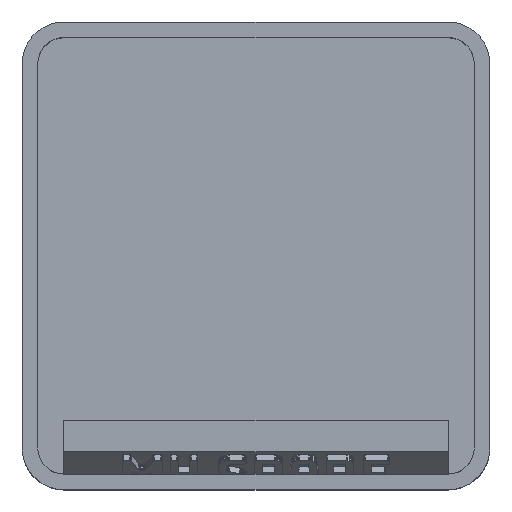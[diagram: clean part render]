
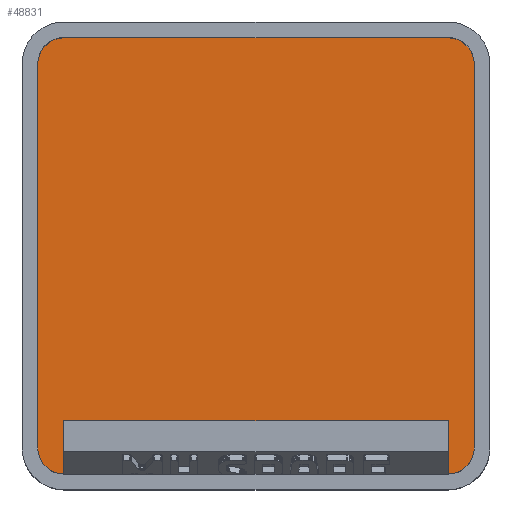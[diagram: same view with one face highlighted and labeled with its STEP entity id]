
A CAD part, top view. The second image highlights one B-rep face of the part: STEP entity #48831.
In plain terms, the highlighted planar face has unit normal (0, 0, 1).
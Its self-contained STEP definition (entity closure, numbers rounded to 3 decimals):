
#912 = PLANE('',#913);
#913 = AXIS2_PLACEMENT_3D('',#914,#915,#916);
#914 = CARTESIAN_POINT('',(-19.6,0.,21.));
#915 = DIRECTION('',(-1.,0.,0.));
#916 = DIRECTION('',(-0.,-1.,-0.));
#940 = CYLINDRICAL_SURFACE('',#941,2.35);
#941 = AXIS2_PLACEMENT_3D('',#942,#943,#944);
#942 = CARTESIAN_POINT('',(-17.25,17.25,5.95));
#943 = DIRECTION('',(-0.,-0.,1.));
#944 = DIRECTION('',(-1.,0.,0.));
#967 = PLANE('',#968);
#968 = AXIS2_PLACEMENT_3D('',#969,#970,#971);
#969 = CARTESIAN_POINT('',(0.,19.6,21.));
#970 = DIRECTION('',(0.,1.,0.));
#971 = DIRECTION('',(-1.,0.,0.));
#995 = CYLINDRICAL_SURFACE('',#996,2.35);
#996 = AXIS2_PLACEMENT_3D('',#997,#998,#999);
#997 = CARTESIAN_POINT('',(17.25,17.25,5.95));
#998 = DIRECTION('',(-0.,-0.,1.));
#999 = DIRECTION('',(-1.,0.,0.));
#1022 = PLANE('',#1023);
#1023 = AXIS2_PLACEMENT_3D('',#1024,#1025,#1026);
#1024 = CARTESIAN_POINT('',(19.6,0.,21.));
#1025 = DIRECTION('',(1.,0.,0.));
#1026 = DIRECTION('',(-0.,1.,0.));
#1050 = CYLINDRICAL_SURFACE('',#1051,2.35);
#1051 = AXIS2_PLACEMENT_3D('',#1052,#1053,#1054);
#1052 = CARTESIAN_POINT('',(17.25,-17.25,5.95));
#1053 = DIRECTION('',(-0.,-0.,1.));
#1054 = DIRECTION('',(-1.,0.,0.));
#1103 = CYLINDRICAL_SURFACE('',#1104,2.35);
#1104 = AXIS2_PLACEMENT_3D('',#1105,#1106,#1107);
#1105 = CARTESIAN_POINT('',(-17.25,-17.25,5.95));
#1106 = DIRECTION('',(-0.,-0.,1.));
#1107 = DIRECTION('',(-1.,0.,0.));
#17895 = EDGE_CURVE('',#17896,#17898,#17900,.T.);
#17896 = VERTEX_POINT('',#17897);
#17897 = CARTESIAN_POINT('',(-19.6,-17.25,5.95));
#17898 = VERTEX_POINT('',#17899);
#17899 = CARTESIAN_POINT('',(-19.6,17.25,5.95));
#17900 = SURFACE_CURVE('',#17901,(#17905,#17912),.PCURVE_S1.);
#17901 = LINE('',#17902,#17903);
#17902 = CARTESIAN_POINT('',(-19.6,0.,5.95));
#17903 = VECTOR('',#17904,1.);
#17904 = DIRECTION('',(0.,1.,0.));
#17905 = PCURVE('',#912,#17906);
#17906 = DEFINITIONAL_REPRESENTATION('',(#17907),#17911);
#17907 = LINE('',#17908,#17909);
#17908 = CARTESIAN_POINT('',(0.,-15.05));
#17909 = VECTOR('',#17910,1.);
#17910 = DIRECTION('',(-1.,0.));
#17911 = ( GEOMETRIC_REPRESENTATION_CONTEXT(2) 
PARAMETRIC_REPRESENTATION_CONTEXT() REPRESENTATION_CONTEXT('2D SPACE',''
  ) );
#17912 = PCURVE('',#17913,#17918);
#17913 = PLANE('',#17914);
#17914 = AXIS2_PLACEMENT_3D('',#17915,#17916,#17917);
#17915 = CARTESIAN_POINT('',(-17.25,-17.25,5.95));
#17916 = DIRECTION('',(0.,0.,-1.));
#17917 = DIRECTION('',(-1.,0.,0.));
#17918 = DEFINITIONAL_REPRESENTATION('',(#17919),#17923);
#17919 = LINE('',#17920,#17921);
#17920 = CARTESIAN_POINT('',(2.35,17.25));
#17921 = VECTOR('',#17922,1.);
#17922 = DIRECTION('',(0.,1.));
#17923 = ( GEOMETRIC_REPRESENTATION_CONTEXT(2) 
PARAMETRIC_REPRESENTATION_CONTEXT() REPRESENTATION_CONTEXT('2D SPACE',''
  ) );
#17970 = EDGE_CURVE('',#17971,#17896,#17973,.T.);
#17971 = VERTEX_POINT('',#17972);
#17972 = CARTESIAN_POINT('',(-17.25,-19.6,5.95));
#17973 = SURFACE_CURVE('',#17974,(#17979,#17986),.PCURVE_S1.);
#17974 = CIRCLE('',#17975,2.35);
#17975 = AXIS2_PLACEMENT_3D('',#17976,#17977,#17978);
#17976 = CARTESIAN_POINT('',(-17.25,-17.25,5.95));
#17977 = DIRECTION('',(0.,0.,-1.));
#17978 = DIRECTION('',(-1.,0.,0.));
#17979 = PCURVE('',#1103,#17980);
#17980 = DEFINITIONAL_REPRESENTATION('',(#17981),#17985);
#17981 = LINE('',#17982,#17983);
#17982 = CARTESIAN_POINT('',(6.283,0.));
#17983 = VECTOR('',#17984,1.);
#17984 = DIRECTION('',(-1.,0.));
#17985 = ( GEOMETRIC_REPRESENTATION_CONTEXT(2) 
PARAMETRIC_REPRESENTATION_CONTEXT() REPRESENTATION_CONTEXT('2D SPACE',''
  ) );
#17986 = PCURVE('',#17913,#17987);
#17987 = DEFINITIONAL_REPRESENTATION('',(#17988),#17992);
#17988 = CIRCLE('',#17989,2.35);
#17989 = AXIS2_PLACEMENT_2D('',#17990,#17991);
#17990 = CARTESIAN_POINT('',(0.,0.));
#17991 = DIRECTION('',(1.,0.));
#17992 = ( GEOMETRIC_REPRESENTATION_CONTEXT(2) 
PARAMETRIC_REPRESENTATION_CONTEXT() REPRESENTATION_CONTEXT('2D SPACE',''
  ) );
#18010 = PLANE('',#18011);
#18011 = AXIS2_PLACEMENT_3D('',#18012,#18013,#18014);
#18012 = CARTESIAN_POINT('',(0.,-19.6,21.));
#18013 = DIRECTION('',(0.,-1.,0.));
#18014 = DIRECTION('',(1.,0.,0.));
#18097 = EDGE_CURVE('',#18098,#18100,#18102,.T.);
#18098 = VERTEX_POINT('',#18099);
#18099 = CARTESIAN_POINT('',(19.6,-17.25,5.95));
#18100 = VERTEX_POINT('',#18101);
#18101 = CARTESIAN_POINT('',(17.25,-19.6,5.95));
#18102 = SURFACE_CURVE('',#18103,(#18108,#18115),.PCURVE_S1.);
#18103 = CIRCLE('',#18104,2.35);
#18104 = AXIS2_PLACEMENT_3D('',#18105,#18106,#18107);
#18105 = CARTESIAN_POINT('',(17.25,-17.25,5.95));
#18106 = DIRECTION('',(0.,0.,-1.));
#18107 = DIRECTION('',(-1.,0.,0.));
#18108 = PCURVE('',#1050,#18109);
#18109 = DEFINITIONAL_REPRESENTATION('',(#18110),#18114);
#18110 = LINE('',#18111,#18112);
#18111 = CARTESIAN_POINT('',(6.283,0.));
#18112 = VECTOR('',#18113,1.);
#18113 = DIRECTION('',(-1.,0.));
#18114 = ( GEOMETRIC_REPRESENTATION_CONTEXT(2) 
PARAMETRIC_REPRESENTATION_CONTEXT() REPRESENTATION_CONTEXT('2D SPACE',''
  ) );
#18115 = PCURVE('',#17913,#18116);
#18116 = DEFINITIONAL_REPRESENTATION('',(#18117),#18121);
#18117 = CIRCLE('',#18118,2.35);
#18118 = AXIS2_PLACEMENT_2D('',#18119,#18120);
#18119 = CARTESIAN_POINT('',(-34.5,0.));
#18120 = DIRECTION('',(1.,0.));
#18121 = ( GEOMETRIC_REPRESENTATION_CONTEXT(2) 
PARAMETRIC_REPRESENTATION_CONTEXT() REPRESENTATION_CONTEXT('2D SPACE',''
  ) );
#18195 = EDGE_CURVE('',#18098,#18196,#18198,.T.);
#18196 = VERTEX_POINT('',#18197);
#18197 = CARTESIAN_POINT('',(19.6,17.25,5.95));
#18198 = SURFACE_CURVE('',#18199,(#18203,#18210),.PCURVE_S1.);
#18199 = LINE('',#18200,#18201);
#18200 = CARTESIAN_POINT('',(19.6,0.,5.95));
#18201 = VECTOR('',#18202,1.);
#18202 = DIRECTION('',(0.,1.,0.));
#18203 = PCURVE('',#1022,#18204);
#18204 = DEFINITIONAL_REPRESENTATION('',(#18205),#18209);
#18205 = LINE('',#18206,#18207);
#18206 = CARTESIAN_POINT('',(0.,-15.05));
#18207 = VECTOR('',#18208,1.);
#18208 = DIRECTION('',(1.,0.));
#18209 = ( GEOMETRIC_REPRESENTATION_CONTEXT(2) 
PARAMETRIC_REPRESENTATION_CONTEXT() REPRESENTATION_CONTEXT('2D SPACE',''
  ) );
#18210 = PCURVE('',#17913,#18211);
#18211 = DEFINITIONAL_REPRESENTATION('',(#18212),#18216);
#18212 = LINE('',#18213,#18214);
#18213 = CARTESIAN_POINT('',(-36.85,17.25));
#18214 = VECTOR('',#18215,1.);
#18215 = DIRECTION('',(0.,1.));
#18216 = ( GEOMETRIC_REPRESENTATION_CONTEXT(2) 
PARAMETRIC_REPRESENTATION_CONTEXT() REPRESENTATION_CONTEXT('2D SPACE',''
  ) );
#18243 = EDGE_CURVE('',#18244,#18196,#18246,.T.);
#18244 = VERTEX_POINT('',#18245);
#18245 = CARTESIAN_POINT('',(17.25,19.6,5.95));
#18246 = SURFACE_CURVE('',#18247,(#18252,#18259),.PCURVE_S1.);
#18247 = CIRCLE('',#18248,2.35);
#18248 = AXIS2_PLACEMENT_3D('',#18249,#18250,#18251);
#18249 = CARTESIAN_POINT('',(17.25,17.25,5.95));
#18250 = DIRECTION('',(0.,0.,-1.));
#18251 = DIRECTION('',(-1.,0.,0.));
#18252 = PCURVE('',#995,#18253);
#18253 = DEFINITIONAL_REPRESENTATION('',(#18254),#18258);
#18254 = LINE('',#18255,#18256);
#18255 = CARTESIAN_POINT('',(6.283,0.));
#18256 = VECTOR('',#18257,1.);
#18257 = DIRECTION('',(-1.,0.));
#18258 = ( GEOMETRIC_REPRESENTATION_CONTEXT(2) 
PARAMETRIC_REPRESENTATION_CONTEXT() REPRESENTATION_CONTEXT('2D SPACE',''
  ) );
#18259 = PCURVE('',#17913,#18260);
#18260 = DEFINITIONAL_REPRESENTATION('',(#18261),#18265);
#18261 = CIRCLE('',#18262,2.35);
#18262 = AXIS2_PLACEMENT_2D('',#18263,#18264);
#18263 = CARTESIAN_POINT('',(-34.5,34.5));
#18264 = DIRECTION('',(1.,0.));
#18265 = ( GEOMETRIC_REPRESENTATION_CONTEXT(2) 
PARAMETRIC_REPRESENTATION_CONTEXT() REPRESENTATION_CONTEXT('2D SPACE',''
  ) );
#18293 = EDGE_CURVE('',#18294,#18244,#18296,.T.);
#18294 = VERTEX_POINT('',#18295);
#18295 = CARTESIAN_POINT('',(-17.25,19.6,5.95));
#18296 = SURFACE_CURVE('',#18297,(#18301,#18308),.PCURVE_S1.);
#18297 = LINE('',#18298,#18299);
#18298 = CARTESIAN_POINT('',(0.,19.6,5.95));
#18299 = VECTOR('',#18300,1.);
#18300 = DIRECTION('',(1.,0.,0.));
#18301 = PCURVE('',#967,#18302);
#18302 = DEFINITIONAL_REPRESENTATION('',(#18303),#18307);
#18303 = LINE('',#18304,#18305);
#18304 = CARTESIAN_POINT('',(0.,-15.05));
#18305 = VECTOR('',#18306,1.);
#18306 = DIRECTION('',(-1.,0.));
#18307 = ( GEOMETRIC_REPRESENTATION_CONTEXT(2) 
PARAMETRIC_REPRESENTATION_CONTEXT() REPRESENTATION_CONTEXT('2D SPACE',''
  ) );
#18308 = PCURVE('',#17913,#18309);
#18309 = DEFINITIONAL_REPRESENTATION('',(#18310),#18314);
#18310 = LINE('',#18311,#18312);
#18311 = CARTESIAN_POINT('',(-17.25,36.85));
#18312 = VECTOR('',#18313,1.);
#18313 = DIRECTION('',(-1.,0.));
#18314 = ( GEOMETRIC_REPRESENTATION_CONTEXT(2) 
PARAMETRIC_REPRESENTATION_CONTEXT() REPRESENTATION_CONTEXT('2D SPACE',''
  ) );
#18342 = EDGE_CURVE('',#17898,#18294,#18343,.T.);
#18343 = SURFACE_CURVE('',#18344,(#18349,#18356),.PCURVE_S1.);
#18344 = CIRCLE('',#18345,2.35);
#18345 = AXIS2_PLACEMENT_3D('',#18346,#18347,#18348);
#18346 = CARTESIAN_POINT('',(-17.25,17.25,5.95));
#18347 = DIRECTION('',(0.,0.,-1.));
#18348 = DIRECTION('',(-1.,0.,0.));
#18349 = PCURVE('',#940,#18350);
#18350 = DEFINITIONAL_REPRESENTATION('',(#18351),#18355);
#18351 = LINE('',#18352,#18353);
#18352 = CARTESIAN_POINT('',(6.283,0.));
#18353 = VECTOR('',#18354,1.);
#18354 = DIRECTION('',(-1.,0.));
#18355 = ( GEOMETRIC_REPRESENTATION_CONTEXT(2) 
PARAMETRIC_REPRESENTATION_CONTEXT() REPRESENTATION_CONTEXT('2D SPACE',''
  ) );
#18356 = PCURVE('',#17913,#18357);
#18357 = DEFINITIONAL_REPRESENTATION('',(#18358),#18362);
#18358 = CIRCLE('',#18359,2.35);
#18359 = AXIS2_PLACEMENT_2D('',#18360,#18361);
#18360 = CARTESIAN_POINT('',(0.,34.5));
#18361 = DIRECTION('',(1.,0.));
#18362 = ( GEOMETRIC_REPRESENTATION_CONTEXT(2) 
PARAMETRIC_REPRESENTATION_CONTEXT() REPRESENTATION_CONTEXT('2D SPACE',''
  ) );
#48831 = ADVANCED_FACE('',(#48832),#17913,.F.);
#48832 = FACE_BOUND('',#48833,.T.);
#48833 = EDGE_LOOP('',(#48834,#48835,#48836,#48857,#48858,#48859,#48860,
    #48861));
#48834 = ORIENTED_EDGE('',*,*,#17895,.F.);
#48835 = ORIENTED_EDGE('',*,*,#17970,.F.);
#48836 = ORIENTED_EDGE('',*,*,#48837,.T.);
#48837 = EDGE_CURVE('',#17971,#18100,#48838,.T.);
#48838 = SURFACE_CURVE('',#48839,(#48843,#48850),.PCURVE_S1.);
#48839 = LINE('',#48840,#48841);
#48840 = CARTESIAN_POINT('',(0.,-19.6,5.95));
#48841 = VECTOR('',#48842,1.);
#48842 = DIRECTION('',(1.,0.,0.));
#48843 = PCURVE('',#17913,#48844);
#48844 = DEFINITIONAL_REPRESENTATION('',(#48845),#48849);
#48845 = LINE('',#48846,#48847);
#48846 = CARTESIAN_POINT('',(-17.25,-2.35));
#48847 = VECTOR('',#48848,1.);
#48848 = DIRECTION('',(-1.,0.));
#48849 = ( GEOMETRIC_REPRESENTATION_CONTEXT(2) 
PARAMETRIC_REPRESENTATION_CONTEXT() REPRESENTATION_CONTEXT('2D SPACE',''
  ) );
#48850 = PCURVE('',#18010,#48851);
#48851 = DEFINITIONAL_REPRESENTATION('',(#48852),#48856);
#48852 = LINE('',#48853,#48854);
#48853 = CARTESIAN_POINT('',(0.,-15.05));
#48854 = VECTOR('',#48855,1.);
#48855 = DIRECTION('',(1.,0.));
#48856 = ( GEOMETRIC_REPRESENTATION_CONTEXT(2) 
PARAMETRIC_REPRESENTATION_CONTEXT() REPRESENTATION_CONTEXT('2D SPACE',''
  ) );
#48857 = ORIENTED_EDGE('',*,*,#18097,.F.);
#48858 = ORIENTED_EDGE('',*,*,#18195,.T.);
#48859 = ORIENTED_EDGE('',*,*,#18243,.F.);
#48860 = ORIENTED_EDGE('',*,*,#18293,.F.);
#48861 = ORIENTED_EDGE('',*,*,#18342,.F.);
